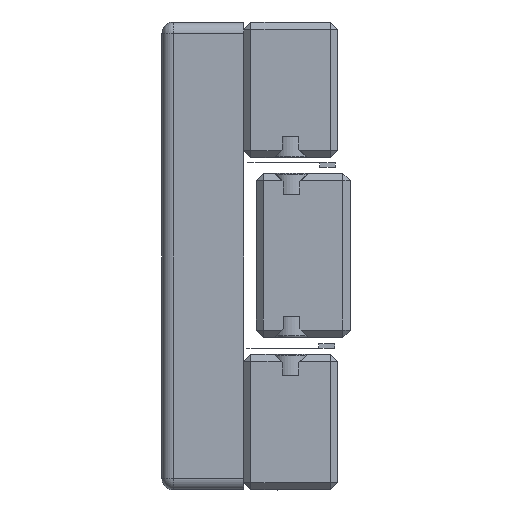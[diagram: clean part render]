
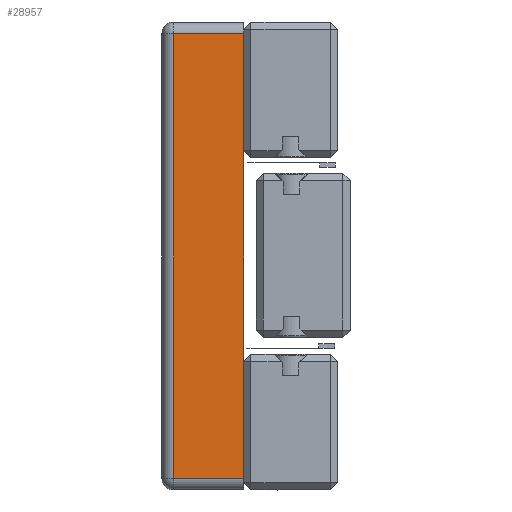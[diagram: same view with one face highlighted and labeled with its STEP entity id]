
A CAD part, left-side view. The second image highlights one B-rep face of the part: STEP entity #28957.
In plain terms, the highlighted planar face has unit normal (-1, 0, 0).
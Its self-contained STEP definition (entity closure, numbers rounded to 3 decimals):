
#3170 = EDGE_CURVE ( 'NONE', #34607, #34598, #24840, .T. ) ;
#3171 = EDGE_CURVE ( 'NONE', #34598, #32016, #24841, .T. ) ;
#3216 = EDGE_CURVE ( 'NONE', #34601, #34607, #24906, .T. ) ;
#3615 = EDGE_LOOP ( 'NONE', ( #41233, #17743, #41288, #17814 ) ) ;
#7109 = DIRECTION ( 'NONE',  ( 0., 0., -1. ) ) ;
#7113 = CARTESIAN_POINT ( 'NONE',  ( -23.649, 16.284, -10. ) ) ;
#7334 = CARTESIAN_POINT ( 'NONE',  ( -23.649, 16.784, -10. ) ) ;
#7336 = PLANE ( 'NONE',  #27747 ) ;
#7339 = DIRECTION ( 'NONE',  ( 1., 0., 0. ) ) ;
#7340 = DIRECTION ( 'NONE',  ( 0., 0., -1. ) ) ;
#8430 = CARTESIAN_POINT ( 'NONE',  ( -23.649, 16.284, 9.5 ) ) ;
#8433 = CARTESIAN_POINT ( 'NONE',  ( -23.649, 13.284, -9.5 ) ) ;
#8439 = CARTESIAN_POINT ( 'NONE',  ( -23.649, 13.284, 9.5 ) ) ;
#11044 = LINE ( 'NONE', #15903, #11064 ) ;
#11064 = VECTOR ( 'NONE', #15910, 1000. ) ;
#15903 = CARTESIAN_POINT ( 'NONE',  ( -23.649, 16.784, -9.5 ) ) ;
#15910 = DIRECTION ( 'NONE',  ( 0., -1., 0. ) ) ;
#17743 = ORIENTED_EDGE ( 'NONE', *, *, #3170, .T. ) ;
#17814 = ORIENTED_EDGE ( 'NONE', *, *, #38140, .T. ) ;
#24111 = CARTESIAN_POINT ( 'NONE',  ( -23.649, 16.784, 9.5 ) ) ;
#24119 = DIRECTION ( 'NONE',  ( 0., 1., 0. ) ) ;
#24237 = CARTESIAN_POINT ( 'NONE',  ( -23.649, 13.284, -10. ) ) ;
#24238 = DIRECTION ( 'NONE',  ( 0., 0., 1. ) ) ;
#24840 = LINE ( 'NONE', #24111, #24844 ) ;
#24841 = LINE ( 'NONE', #7113, #24846 ) ;
#24844 = VECTOR ( 'NONE', #24119, 1000. ) ;
#24846 = VECTOR ( 'NONE', #7109, 1000. ) ;
#24906 = LINE ( 'NONE', #24237, #24909 ) ;
#24909 = VECTOR ( 'NONE', #24238, 1000. ) ;
#27747 = AXIS2_PLACEMENT_3D ( 'NONE', #7334, #7339, #7340 ) ;
#28957 = ADVANCED_FACE ( 'NONE', ( #30718 ), #7336, .F. ) ;
#30718 = FACE_OUTER_BOUND ( 'NONE', #3615, .T. ) ;
#32016 = VERTEX_POINT ( 'NONE', #39948 ) ;
#34598 = VERTEX_POINT ( 'NONE', #8430 ) ;
#34601 = VERTEX_POINT ( 'NONE', #8433 ) ;
#34607 = VERTEX_POINT ( 'NONE', #8439 ) ;
#38140 = EDGE_CURVE ( 'NONE', #32016, #34601, #11044, .T. ) ;
#39948 = CARTESIAN_POINT ( 'NONE',  ( -23.649, 16.284, -9.5 ) ) ;
#41233 = ORIENTED_EDGE ( 'NONE', *, *, #3216, .T. ) ;
#41288 = ORIENTED_EDGE ( 'NONE', *, *, #3171, .T. ) ;
